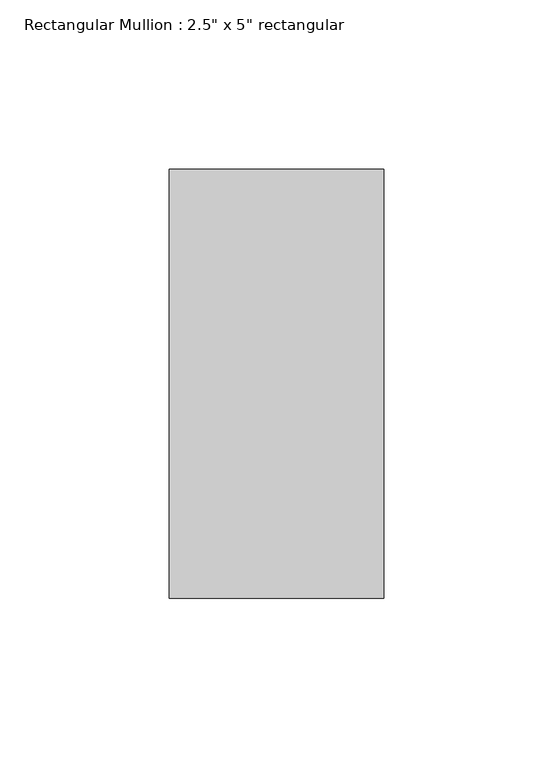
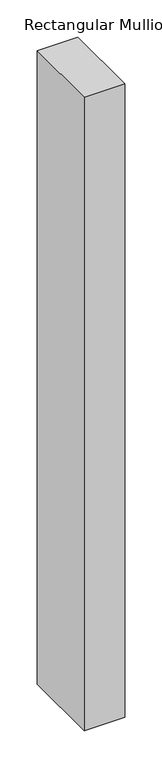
"""IFC4 building model written with IfcOpenShell, lengths in millimetres: member geometry."""

from ifc_helpers import new_model, si_unit, frame, origin, place, context, project, spatial, polyline, outline, extrude, source, transform, mapped, element, save


def member_b8b4edc1(model_context):
    return source(origin(), model_context, "Body", "SweptSolid", [
        extrude(outline(polyline([(0.0, 50.8), (0.0, -76.2), (-63.5, -76.2), (-63.5, 50.8), (0.0, 50.8)])), frame((0.0, 0.0, -1043.305), z_axis=(0.0, 0.0, 1.0), x_axis=(1.0, 0.0, 0.0)), (0.0, 0.0, 1.0), 1043.305),
    ])


if __name__ == "__main__":
    model = new_model("IFC4")
    model_context = context("Model", 3, world=origin())
    ifc_project = project(units=[si_unit("LENGTHUNIT", "METRE", prefix="MILLI")], contexts=[model_context])
    site = spatial("IfcSite", under=ifc_project)
    building = spatial("IfcBuilding", under=site)
    placement = place(None, origin())
    member_shape = member_b8b4edc1(model_context)
    element("IfcMember", 1, ObjectType="Rectangular Mullion : 2.5\" x 5\" rectangular", at=placement, inside=building, context=model_context, shape_type="MappedRepresentation", body=[
        mapped(member_shape, transform((0.0, 0.0, 0.0), x_axis=(1.0, 0.0, 0.0), y_axis=(0.0, 1.0, 0.0), z_axis=(0.0, 0.0, 1.0))),
    ])
    save(model, "model.ifc")
